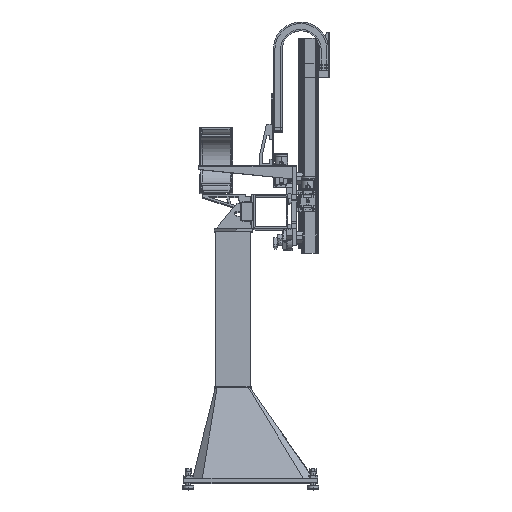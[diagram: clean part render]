
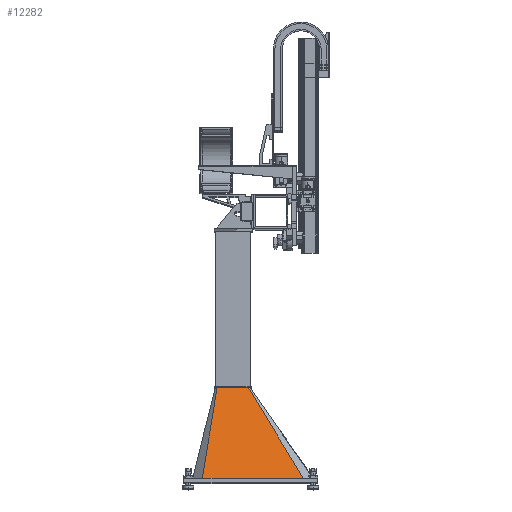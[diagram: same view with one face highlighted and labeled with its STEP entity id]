
A CAD part, top view. The second image highlights one B-rep face of the part: STEP entity #12282.
In plain terms, the highlighted planar face has unit normal (0, 0.259, 0.966).
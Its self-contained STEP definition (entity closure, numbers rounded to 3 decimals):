
#239 = VECTOR ( 'NONE', #2801, 1000. ) ;
#2801 = DIRECTION ( 'NONE',  ( 0.507, -0.832, 0.223 ) ) ;
#3872 = CARTESIAN_POINT ( 'NONE',  ( -112.5, 727., 125. ) ) ;
#5239 = VECTOR ( 'NONE', #31109, 1000. ) ;
#5755 = AXIS2_PLACEMENT_3D ( 'NONE', #61816, #46614, #16142 ) ;
#6855 = LINE ( 'NONE', #36002, #5239 ) ;
#10493 = VERTEX_POINT ( 'NONE', #22151 ) ;
#10600 = ORIENTED_EDGE ( 'NONE', *, *, #33069, .F. ) ;
#10888 = CARTESIAN_POINT ( 'NONE',  ( 510., 75., 300. ) ) ;
#10980 = PLANE ( 'NONE',  #5755 ) ;
#12282 = ADVANCED_FACE ( 'NONE', ( #26758 ), #10980, .T. ) ;
#16142 = DIRECTION ( 'NONE',  ( 0., -0.966, 0.259 ) ) ;
#18312 = VERTEX_POINT ( 'NONE', #41340 ) ;
#22151 = CARTESIAN_POINT ( 'NONE',  ( -112.5, 727., 125. ) ) ;
#26495 = DIRECTION ( 'NONE',  ( 1., 0., 0. ) ) ;
#26758 = FACE_OUTER_BOUND ( 'NONE', #30124, .T. ) ;
#27939 = CARTESIAN_POINT ( 'NONE',  ( 112.5, 727., 125. ) ) ;
#30096 = CARTESIAN_POINT ( 'NONE',  ( 510., 75., 300. ) ) ;
#30124 = EDGE_LOOP ( 'NONE', ( #40650, #52170, #10600, #35975 ) ) ;
#31109 = DIRECTION ( 'NONE',  ( -1., 0., 0. ) ) ;
#31236 = EDGE_CURVE ( 'NONE', #18312, #10493, #6855, .T. ) ;
#33069 = EDGE_CURVE ( 'NONE', #18312, #51497, #54415, .T. ) ;
#34377 = DIRECTION ( 'NONE',  ( -0.157, -0.954, 0.256 ) ) ;
#34753 = VECTOR ( 'NONE', #26495, 1000. ) ;
#35975 = ORIENTED_EDGE ( 'NONE', *, *, #31236, .T. ) ;
#36002 = CARTESIAN_POINT ( 'NONE',  ( -112.5, 727., 125. ) ) ;
#36342 = LINE ( 'NONE', #10888, #34753 ) ;
#37856 = EDGE_CURVE ( 'NONE', #10493, #58614, #62547, .T. ) ;
#40650 = ORIENTED_EDGE ( 'NONE', *, *, #37856, .T. ) ;
#41340 = CARTESIAN_POINT ( 'NONE',  ( 112.5, 727., 125. ) ) ;
#46614 = DIRECTION ( 'NONE',  ( 0., 0.259, 0.966 ) ) ;
#48972 = VECTOR ( 'NONE', #34377, 1000. ) ;
#51497 = VERTEX_POINT ( 'NONE', #30096 ) ;
#52170 = ORIENTED_EDGE ( 'NONE', *, *, #62280, .T. ) ;
#54415 = LINE ( 'NONE', #27939, #239 ) ;
#58614 = VERTEX_POINT ( 'NONE', #62640 ) ;
#61816 = CARTESIAN_POINT ( 'NONE',  ( 0., 80.15, 298.618 ) ) ;
#62280 = EDGE_CURVE ( 'NONE', #58614, #51497, #36342, .T. ) ;
#62547 = LINE ( 'NONE', #3872, #48972 ) ;
#62640 = CARTESIAN_POINT ( 'NONE',  ( -220., 75., 300. ) ) ;
